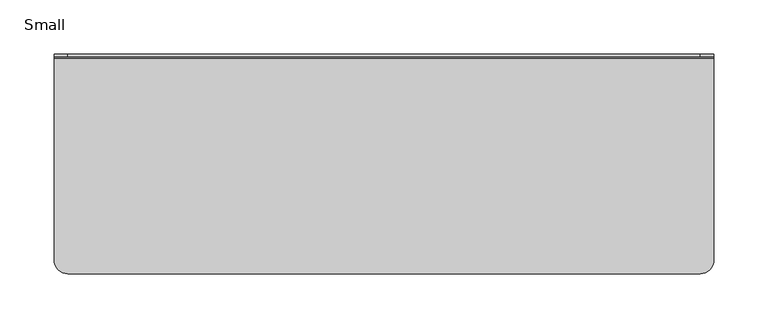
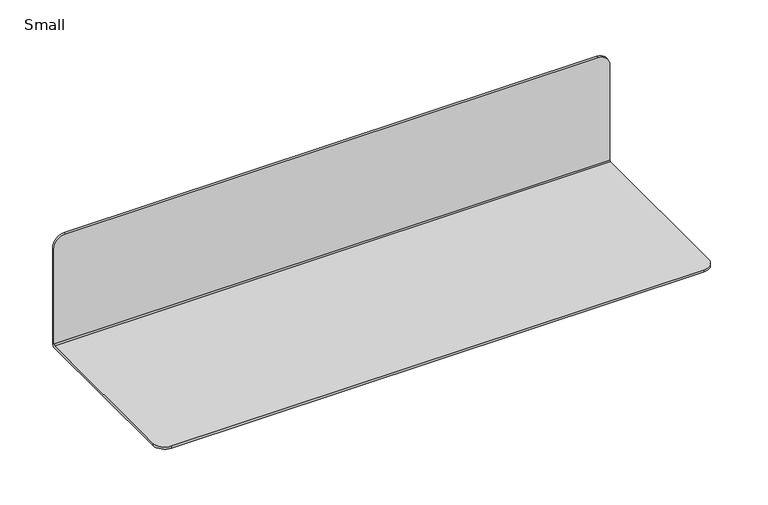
"""IFC4 building model written with IfcOpenShell, lengths in millimetres: furniture geometry, Blu Dot - Welf - Wall Shelf : Small."""

from ifc_helpers import new_model, si_unit, frame, origin, place, context, project, spatial, polyline, circle_curve, source, transform, mapped, element, save
from ifc_brep_helpers import plane_surface, cylinder_surface, revolved_surface, advanced_brep


def small_f59df922(model_context):
    return source(origin(), model_context, "Body", "AdvancedBrep", [
        advanced_brep(
        [(304.8, 99.06, 3.81), (304.8, 99.06, 114.3), (292.1, 99.06, 127.0), (-292.1, 99.06, 127.0), (-304.8, 99.06, 114.3), (-304.8, 99.06, 3.81), (-304.8, 101.6, 114.3), (-292.1, 101.6, 127.0), (292.1, 101.6, 127.0), (304.8, 101.6, 114.3), (304.8, 101.6, 2.54), (-304.8, 101.6, 2.54), (304.8, 97.79, 2.54), (304.8, -88.9, 2.54), (304.8, -88.9, 0.0), (304.8, 99.06, 0.0), (-304.8, 99.06, 0.0), (-304.8, -88.9, 0.0), (-304.8, -88.9, 2.54), (-304.8, 97.79, 2.54), (292.1, -101.6, 0.0), (-292.1, -101.6, 0.0), (-292.1, -101.6, 2.54), (292.1, -101.6, 2.54)],
        [
            (0, 1),
            (1, 2, circle_curve(frame((292.1, 99.06, 114.3), z_axis=(0.0, -1.0, 0.0), x_axis=(1.0, 0.0, 0.0)), 12.7)),
            (2, 3),
            (3, 4, circle_curve(frame((-292.1, 99.06, 114.3), z_axis=(0.0, -1.0, 0.0), x_axis=(1.0, 0.0, 0.0)), 12.7)),
            (4, 5),
            (5, 0),
            (6, 7, circle_curve(frame((-292.1, 101.6, 114.3), z_axis=(0.0, 1.0, 0.0), x_axis=(1.0, 0.0, 0.0)), 12.7)),
            (7, 8),
            (8, 9, circle_curve(frame((292.1, 101.6, 114.3), z_axis=(0.0, 1.0, 0.0), x_axis=(1.0, 0.0, 0.0)), 12.7)),
            (9, 10),
            (10, 11),
            (11, 6),
            (0, 12, circle_curve(frame((304.8, 97.79, 3.81), z_axis=(-1.0, 0.0, 0.0), x_axis=(0.0, 1.0, 0.0)), 1.27)),
            (12, 13),
            (13, 14),
            (14, 15),
            (15, 10, circle_curve(frame((304.8, 99.06, 2.54), z_axis=(1.0, 0.0, 0.0), x_axis=(0.0, 1.0, 0.0)), 2.54)),
            (9, 1),
            (8, 2),
            (7, 3),
            (6, 4),
            (11, 16, circle_curve(frame((-304.8, 99.06, 2.54), z_axis=(-1.0, 0.0, 0.0), x_axis=(0.0, 1.0, 0.0)), 2.54)),
            (16, 17),
            (17, 18),
            (18, 19),
            (19, 5, circle_curve(frame((-304.8, 97.79, 3.81), z_axis=(1.0, 0.0, 0.0), x_axis=(0.0, 1.0, 0.0)), 1.27)),
            (19, 12),
            (14, 20, circle_curve(frame((292.1, -88.9, 0.0), z_axis=(0.0, 0.0, -1.0), x_axis=(1.0, 0.0, 0.0)), 12.7)),
            (20, 21),
            (21, 17, circle_curve(frame((-292.1, -88.9, 0.0), z_axis=(0.0, 0.0, -1.0), x_axis=(1.0, 0.0, 0.0)), 12.7)),
            (16, 15),
            (18, 22, circle_curve(frame((-292.1, -88.9, 2.54), z_axis=(0.0, 0.0, 1.0), x_axis=(1.0, 0.0, 0.0)), 12.7)),
            (22, 23),
            (23, 13, circle_curve(frame((292.1, -88.9, 2.54), z_axis=(0.0, 0.0, 1.0), x_axis=(1.0, 0.0, 0.0)), 12.7)),
            (21, 22),
            (20, 23),
        ],
        [
            plane_surface(frame((-304.8, 99.06, 3.81), z_axis=(0.0, -1.0, 0.0), x_axis=(1.0, 0.0, 0.0))),
            plane_surface(frame((-304.8, 101.6, 3.81), z_axis=(0.0, 1.0, 0.0), x_axis=(-1.0, 0.0, 0.0))),
            plane_surface(frame((304.8, 99.06, 3.81), z_axis=(1.0, 0.0, 0.0), x_axis=(0.0, 1.0, 0.0))),
            cylinder_surface(frame((292.1, 101.6, 114.3), z_axis=(0.0, -1.0, 0.0), x_axis=(1.0, 0.0, 0.0)), 12.7),
            plane_surface(frame((292.1, 99.06, 127.0), z_axis=(0.0, 0.0, 1.0), x_axis=(0.0, 1.0, 0.0))),
            cylinder_surface(frame((-292.1, 101.6, 114.3), z_axis=(0.0, -1.0, 0.0), x_axis=(1.0, 0.0, 0.0)), 12.7),
            plane_surface(frame((-304.8, 99.06, 114.3), z_axis=(-1.0, 0.0, 0.0), x_axis=(0.0, 1.0, 0.0))),
            revolved_surface(polyline([(-304.8, 99.06, 3.81), (304.8, 99.06, 3.81)]), (-304.8, 97.79, 3.81), (-1.0, 0.0, 0.0)),
            plane_surface(frame((304.8, 97.79, 0.0), z_axis=(0.0, 0.0, -1.0), x_axis=(-1.0, 0.0, 0.0))),
            cylinder_surface(frame((-304.8, 99.06, 2.54), z_axis=(1.0, 0.0, 0.0), x_axis=(0.0, 1.0, 0.0)), 2.54),
            plane_surface(frame((-279.4, -88.9, 2.54), z_axis=(0.0, 0.0, 1.0), x_axis=(0.0, 1.0, 0.0))),
            cylinder_surface(frame((-292.1, -88.9, 0.0), z_axis=(0.0, 0.0, 1.0), x_axis=(1.0, 0.0, 0.0)), 12.7),
            plane_surface(frame((-292.1, -101.6, 2.54), z_axis=(0.0, -1.0, 0.0), x_axis=(0.0, 0.0, -1.0))),
            cylinder_surface(frame((292.1, -88.9, 0.0), z_axis=(0.0, 0.0, 1.0), x_axis=(1.0, 0.0, 0.0)), 12.7),
        ],
        [
            (0, [[1, 2, 3, 4, 5, 6]]),
            (1, [[7, 8, 9, 10, 11, 12]]),
            (2, [[-1, 13, 14, 15, 16, 17, -10, 18]]),
            (3, [[-2, -18, -9, 19]]),
            (4, [[-3, -19, -8, 20]]),
            (5, [[-4, -20, -7, 21]]),
            (6, [[-5, -21, -12, 22, 23, 24, 25, 26]]),
            (7, [[-13, -6, -26, 27]]),
            (8, [[-16, 28, 29, 30, -23, 31]]),
            (9, [[-17, -31, -22, -11]]),
            (10, [[32, 33, 34, -14, -27, -25]]),
            (11, [[-32, -24, -30, 35]]),
            (12, [[-33, -35, -29, 36]]),
            (13, [[-34, -36, -28, -15]]),
        ],
    ),
    ])


if __name__ == "__main__":
    model = new_model("IFC4")
    model_context = context("Model", 3, world=origin())
    ifc_project = project(units=[si_unit("LENGTHUNIT", "METRE", prefix="MILLI")], contexts=[model_context])
    site = spatial("IfcSite", under=ifc_project)
    building = spatial("IfcBuilding", under=site)
    placement = place(None, origin())
    small_shape = small_f59df922(model_context)
    element("IfcFurniture", 1, ObjectType="Blu Dot - Welf - Wall Shelf : Small", at=placement, inside=building, context=model_context, shape_type="MappedRepresentation", body=[
        mapped(small_shape, transform((0.0, 0.0, 0.0), x_axis=(1.0, 0.0, 0.0), y_axis=(0.0, 1.0, 0.0), z_axis=(0.0, 0.0, 1.0))),
    ])
    save(model, "model.ifc")
